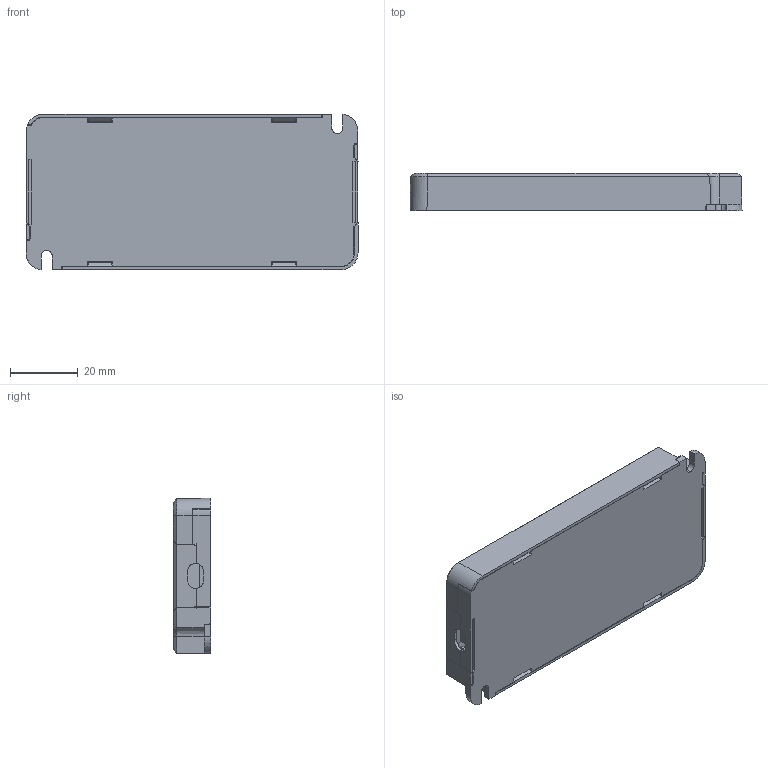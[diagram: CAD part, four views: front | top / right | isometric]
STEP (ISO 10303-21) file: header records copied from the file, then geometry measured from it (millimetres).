
FILE_DESCRIPTION(('FreeCAD Model'),'2;1');
FILE_NAME('X:/Application Engineering/4 Documentation/3 Users/1 MaS/3D Projekt/RACD06-LP_3D_20190724step.step','2019-07-24T11:19:14',('Author') ,(''),'Open CASCADE STEP processor 7.3','FreeCAD','Unknown');
FILE_SCHEMA(('AUTOMOTIVE_DESIGN { 1 0 10303 214 1 1 1 1 }'));
Length unit declared in the file: millimetre
Products named in the file (9): RACD06-LP_PCB; RACD06-LP_wire_cover_DC_side; RACD06-LP_bottom_plate; RACD06-LP_M3_screw2; RACD06-LP_M3_screw; RACD06-LP_wire_cover_AC_side; RACD06-LP_M3_screw3; RACD06-LP_case; RACD06-LP_M3_screw4
Bounding box: 98.01 x 11 x 45.91 mm (x, y, z)
Volume: 22986.3 mm3; surface area: 37536.5 mm2
Topology: 9 solids, 9 shells, 1125 faces, 3051 edges, 1935 vertices
Faces by surface type: plane 628, cylinder 268, bspline 156, cone 65, revolution 8
Entity records: 70884 total; most frequent: CARTESIAN_POINT 38531, ORIENTED_EDGE 6038, DIRECTION 4663, EDGE_CURVE 3019, VERTEX_POINT 1935, LINE 1881, VECTOR 1881, AXIS2_PLACEMENT_3D 1387
